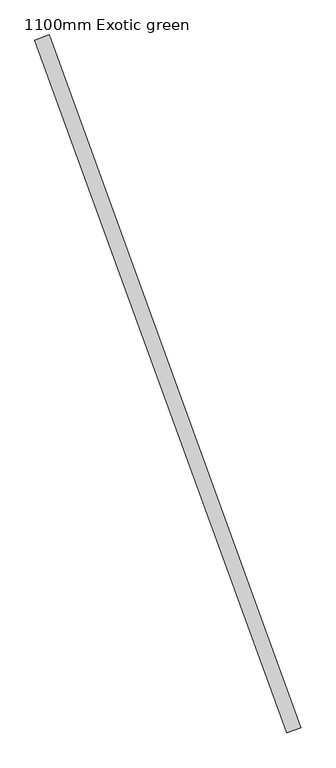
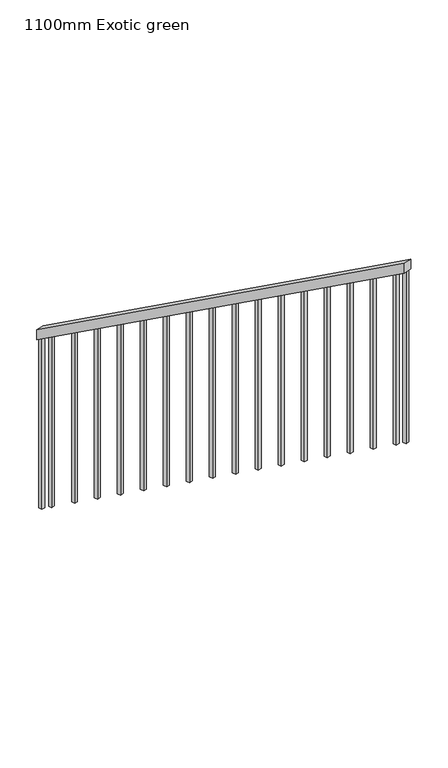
"""IFC4 building model written with IfcOpenShell, lengths in millimetres: railing geometry, 1100mm Exotic green."""

from ifc_helpers import new_model, si_unit, frame, origin, place, context, project, spatial, polyline, outline, extrude, source, transform, mapped, element, save


def railing_1100mm_exotic_green_5ad3b40d(model_context):
    return source(origin(), model_context, "Body", "SweptSolid", [
        extrude(outline(polyline([(30.952381, -50.0), (0.0, 0.0), (2822.6489223, 0.0), (2853.6013033, -50.0), (30.952381, -50.0)])), frame((35569.8824474, 15497.1641396, 8826.9090998), z_axis=(0.939692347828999, 0.3420208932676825, 0.0), x_axis=(0.2908084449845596, -0.7989876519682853, 0.5263546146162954)), (0.0, 0.0, 1.0), 50.0),
        extrude(outline(polyline([(106.1904762, 0.0), (1150.0, 0.0), (1150.0, -20.0000001), (93.8095238, -20.0000001), (106.1904762, 0.0)])), frame((36375.7562005, 13326.9066678, 10375.0), z_axis=(0.9396923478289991, 0.3420208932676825, 0.0), x_axis=(0.0, 0.0, -1.0)), (0.0, 0.0, 1.0), 20.0),
        extrude(outline(polyline([(106.1904761, 0.0), (1150.0, 0.0), (1150.0, -20.0000001), (93.8095238, -20.0000001), (106.1904761, 0.0)])), frame((36324.4530665, 13467.86052, 10282.1428571), z_axis=(0.9396923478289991, 0.3420208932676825, 0.0), x_axis=(0.0, 0.0, -1.0)), (0.0, 0.0, 1.0), 20.0),
        extrude(outline(polyline([(106.1904762, 0.0), (1150.0, 0.0), (1150.0, -19.9999999), (93.8095238, -19.9999999), (106.1904762, 0.0)])), frame((36273.1499326, 13608.8143721, 10189.2857143), z_axis=(0.9396923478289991, 0.3420208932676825, 0.0), x_axis=(0.0, 0.0, -1.0)), (0.0, 0.0, 1.0), 20.0),
        extrude(outline(polyline([(106.1904762, 0.0), (1150.0, 0.0), (1150.0, -19.9999999), (93.8095238, -19.9999999), (106.1904762, 0.0)])), frame((36221.8467986, 13749.7682243, 10096.4285714), z_axis=(0.9396923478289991, 0.3420208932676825, 0.0), x_axis=(0.0, 0.0, -1.0)), (0.0, 0.0, 1.0), 20.0),
        extrude(outline(polyline([(106.1904762, 0.0), (1150.0, 0.0), (1150.0, -20.0), (93.8095238, -20.0), (106.1904762, 0.0)])), frame((36170.5436646, 13890.7220765, 10003.5714286), z_axis=(0.9396923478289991, 0.3420208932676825, 0.0), x_axis=(0.0, 0.0, -1.0)), (0.0, 0.0, 1.0), 20.0),
        extrude(outline(polyline([(106.1904762, 0.0), (1150.0, 0.0), (1150.0, -20.0), (93.8095238, -20.0), (106.1904762, 0.0)])), frame((36119.2405306, 14031.6759287, 9910.7142857), z_axis=(0.9396923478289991, 0.3420208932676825, 0.0), x_axis=(0.0, 0.0, -1.0)), (0.0, 0.0, 1.0), 20.0),
        extrude(outline(polyline([(106.1904762, 0.0), (1150.0, 0.0), (1150.0, -20.0), (93.8095239, -20.0), (106.1904762, 0.0)])), frame((36067.9373966, 14172.6297808, 9817.8571429), z_axis=(0.9396923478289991, 0.3420208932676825, 0.0), x_axis=(0.0, 0.0, -1.0)), (0.0, 0.0, 1.0), 20.0),
        extrude(outline(polyline([(106.1904762, 0.0), (1150.0, 0.0), (1150.0, -20.0), (93.8095238, -20.0), (106.1904762, 0.0)])), frame((36016.6342626, 14313.583633, 9725.0), z_axis=(0.9396923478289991, 0.3420208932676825, 0.0), x_axis=(0.0, 0.0, -1.0)), (0.0, 0.0, 1.0), 20.0),
        extrude(outline(polyline([(106.1904761, 0.0), (1150.0, 0.0), (1150.0, -20.0000001), (93.8095238, -20.0000001), (106.1904761, 0.0)])), frame((35965.3311286, 14454.5374852, 9632.1428571), z_axis=(0.9396923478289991, 0.3420208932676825, 0.0), x_axis=(0.0, 0.0, -1.0)), (0.0, 0.0, 1.0), 20.0),
        extrude(outline(polyline([(106.1904762, 0.0), (1150.0, 0.0), (1150.0, -20.0000001), (93.8095238, -20.0000001), (106.1904762, 0.0)])), frame((35914.0279946, 14595.4913374, 9539.2857143), z_axis=(0.9396923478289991, 0.3420208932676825, 0.0), x_axis=(0.0, 0.0, -1.0)), (0.0, 0.0, 1.0), 20.0),
        extrude(outline(polyline([(106.1904762, 0.0), (1150.0, 0.0), (1150.0, -20.0), (93.8095238, -20.0), (106.1904762, 0.0)])), frame((35862.7248606, 14736.4451895, 9446.4285714), z_axis=(0.9396923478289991, 0.3420208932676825, 0.0), x_axis=(0.0, 0.0, -1.0)), (0.0, 0.0, 1.0), 20.0),
        extrude(outline(polyline([(106.1904762, 0.0), (1150.0, 0.0), (1150.0, -20.0), (93.8095238, -20.0), (106.1904762, 0.0)])), frame((35811.4217266, 14877.3990417, 9353.5714286), z_axis=(0.9396923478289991, 0.3420208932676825, 0.0), x_axis=(0.0, 0.0, -1.0)), (0.0, 0.0, 1.0), 20.0),
        extrude(outline(polyline([(106.1904762, 0.0), (1150.0, 0.0), (1150.0, -20.0000001), (93.8095238, -20.0000001), (106.1904762, 0.0)])), frame((35760.1185926, 15018.3528939, 9260.7142857), z_axis=(0.9396923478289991, 0.3420208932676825, 0.0), x_axis=(0.0, 0.0, -1.0)), (0.0, 0.0, 1.0), 20.0),
        extrude(outline(polyline([(106.1904762, 0.0), (1150.0, 0.0), (1150.0, -20.0), (93.8095239, -20.0), (106.1904762, 0.0)])), frame((35708.8154587, 15159.3067461, 9167.8571429), z_axis=(0.9396923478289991, 0.3420208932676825, 0.0), x_axis=(0.0, 0.0, -1.0)), (0.0, 0.0, 1.0), 20.0),
        extrude(outline(polyline([(106.1904762, 0.0), (1150.0, 0.0), (1150.0, -19.9999999), (93.8095238, -19.9999999), (106.1904762, 0.0)])), frame((35657.5123247, 15300.2605982, 9075.0), z_axis=(0.9396923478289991, 0.3420208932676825, 0.0), x_axis=(0.0, 0.0, -1.0)), (0.0, 0.0, 1.0), 20.0),
        extrude(outline(polyline([(106.1904761, 0.0), (1150.0, 0.0), (1150.0, -19.9999999), (93.8095238, -19.9999999), (106.1904761, 0.0)])), frame((35606.2091907, 15441.2144504, 8982.1428571), z_axis=(0.9396923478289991, 0.3420208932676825, 0.0), x_axis=(0.0, 0.0, -1.0)), (0.0, 0.0, 1.0), 20.0),
        extrude(outline(polyline([(106.1904762, 0.0), (1150.0, 0.0), (1150.0, -20.0), (93.8095238, -20.0), (106.1904762, 0.0)])), frame((36397.1325064, 13268.1758961, 10413.6904762), z_axis=(0.9396923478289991, 0.3420208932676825, 0.0), x_axis=(0.0, 0.0, -1.0)), (0.0, 0.0, 1.0), 20.0),
        extrude(outline(polyline([(106.1904762, 0.0), (1150.0, 0.0), (1150.0, -19.9999999), (93.8095239, -19.9999999), (106.1904762, 0.0)])), frame((35584.8328849, 15499.9452221, 8943.452381), z_axis=(0.9396923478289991, 0.3420208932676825, 0.0), x_axis=(0.0, 0.0, -1.0)), (0.0, 0.0, 1.0), 20.0),
    ])


if __name__ == "__main__":
    model = new_model("IFC4")
    model_context = context("Model", 3, world=origin())
    ifc_project = project(units=[si_unit("LENGTHUNIT", "METRE", prefix="MILLI")], contexts=[model_context])
    site = spatial("IfcSite", under=ifc_project)
    building = spatial("IfcBuilding", under=site)
    placement = place(None, origin())
    railing_1100mm_exotic_green_shape = railing_1100mm_exotic_green_5ad3b40d(model_context)
    element("IfcRailing", 1, ObjectType="1100mm Exotic green", at=placement, inside=building, context=model_context, shape_type="MappedRepresentation", body=[
        mapped(railing_1100mm_exotic_green_shape, transform((0.0, 0.0, 0.0), x_axis=(1.0, 0.0, 0.0), y_axis=(0.0, 1.0, 0.0), z_axis=(0.0, 0.0, 1.0))),
    ])
    save(model, "model.ifc")
